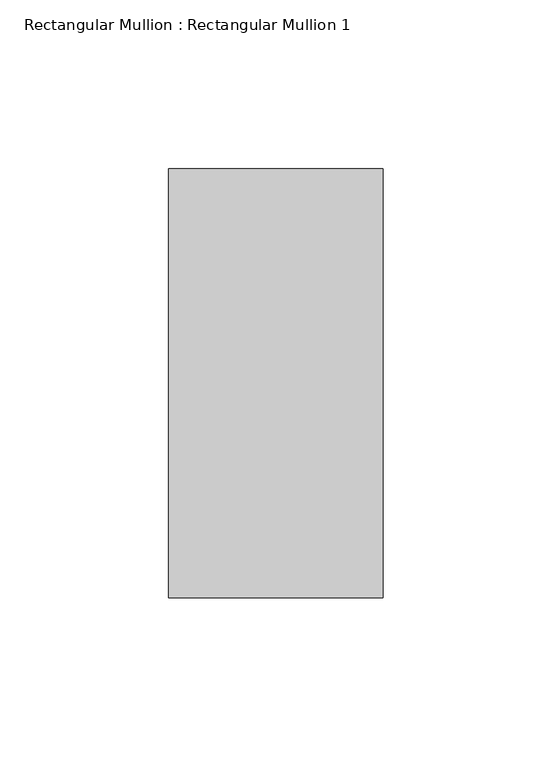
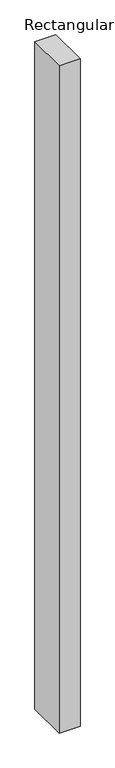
"""IFC4 building model written with IfcOpenShell, lengths in millimetres: member geometry, Rectangular Mullion : Rectangular Mullion 1."""

from ifc_helpers import new_model, si_unit, frame, origin, place, context, project, spatial, polyline, outline, extrude, source, transform, mapped, element, save


def rectangular_mullion_rectangular_mullion_1_af49f44f(model_context):
    return source(origin(), model_context, "Body", "SweptSolid", [
        extrude(outline(polyline([(0.0, 63.5), (0.0, -63.5), (-63.5, -63.5), (-63.5, 63.5), (0.0, 63.5)])), frame((0.0, 0.0, -2138.1357142), z_axis=(0.0, 0.0, 1.0), x_axis=(1.0, 0.0, 0.0)), (0.0, 0.0, 1.0), 2138.1357142),
    ])


if __name__ == "__main__":
    model = new_model("IFC4")
    model_context = context("Model", 3, world=origin())
    ifc_project = project(units=[si_unit("LENGTHUNIT", "METRE", prefix="MILLI")], contexts=[model_context])
    site = spatial("IfcSite", under=ifc_project)
    building = spatial("IfcBuilding", under=site)
    placement = place(None, origin())
    rectangular_mullion_rectangular_mullion_1_shape = rectangular_mullion_rectangular_mullion_1_af49f44f(model_context)
    element("IfcMember", 1, ObjectType="Rectangular Mullion : Rectangular Mullion 1", at=placement, inside=building, context=model_context, shape_type="MappedRepresentation", body=[
        mapped(rectangular_mullion_rectangular_mullion_1_shape, transform((0.0, 0.0, 0.0), x_axis=(1.0, 0.0, 0.0), y_axis=(0.0, 1.0, 0.0), z_axis=(0.0, 0.0, 1.0))),
    ])
    save(model, "model.ifc")
